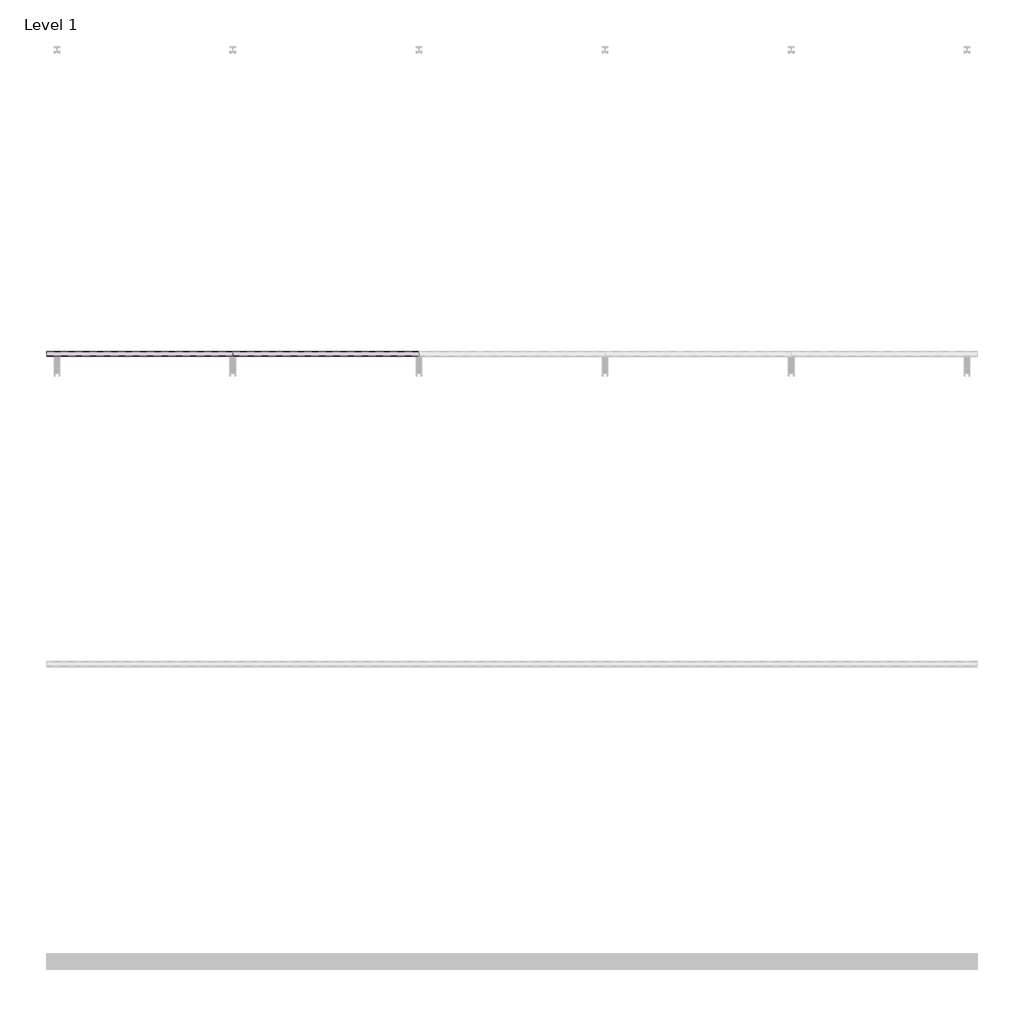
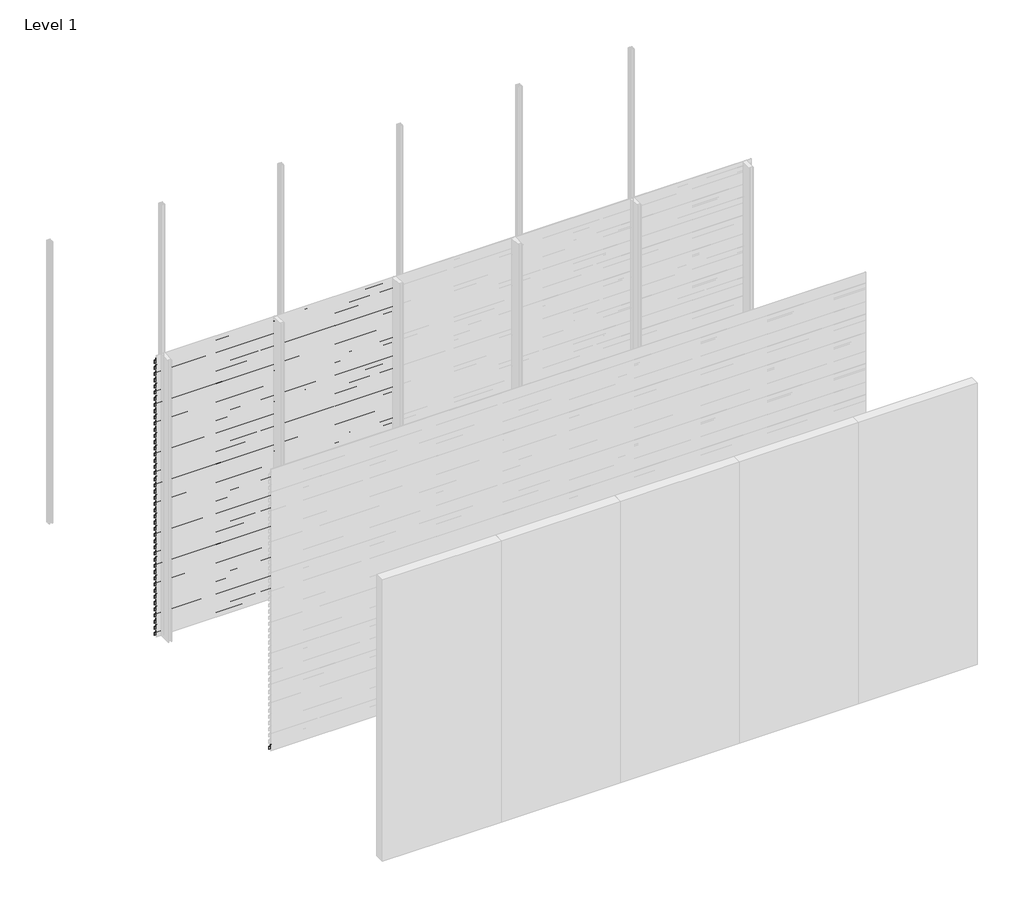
# One storey, part 7 of 33: 88 proxies.
"""IFC4 building model written with IfcOpenShell, lengths in millimetres."""

from ifc_helpers import new_model, si_unit, frame, origin, place, context, project, spatial, polyline, outline, extrude, element, save

model = new_model("IFC4")

# Units and contexts
model_context = context("Model", 3, world=origin())
ifc_project = project(units=[si_unit("LENGTHUNIT", "METRE", prefix="MILLI")], contexts=[model_context])

# Site, building, storey
site = spatial("IfcSite", under=ifc_project)
building = spatial("IfcBuilding", under=site)
storey = spatial("IfcBuildingStorey", under=building, Name="Level 1", Elevation=0.0)

# Proxies
placement = place(None, origin())
element("IfcBuildingElementProxy", 1, Name="Wall Sweeps", at=placement, inside=storey, context=model_context, shape_type="SweptSolid", body=[
    extrude(outline(polyline([(-47967.0, 2930.0), (-47967.0, 2897.0), (-47968.25, 2897.7216933), (-47968.25, 2929.2872415), (-47998.0, 2950.0588647), (-47998.0, 2970.0), (-47996.75, 2970.0), (-47996.75, 2950.7716232), (-47967.0, 2930.0)])), frame((0.0, 0.0, 0.0), z_axis=(1.0, 0.0, 0.0), x_axis=(0.0, 1.0, 0.0)), (0.0, 0.0, 1.0), 1200.0),
])
element("IfcBuildingElementProxy", 2, Name="Wall Sweeps", at=placement, inside=storey, context=model_context, shape_type="SweptSolid", body=[
    extrude(outline(polyline([(-47967.0, 2864.0), (-47967.0, 2831.0), (-47968.25, 2831.7216933), (-47968.25, 2863.2872415), (-47998.0, 2884.0588647), (-47998.0, 2904.0), (-47996.75, 2904.0), (-47996.75, 2884.7716232), (-47967.0, 2864.0)])), frame((0.0, 0.0, 0.0), z_axis=(1.0, 0.0, 0.0), x_axis=(0.0, 1.0, 0.0)), (0.0, 0.0, 1.0), 1200.0),
])
element("IfcBuildingElementProxy", 3, Name="Wall Sweeps", at=placement, inside=storey, context=model_context, shape_type="SweptSolid", body=[
    extrude(outline(polyline([(-47967.0, 2798.0), (-47967.0, 2765.0), (-47968.25, 2765.7216933), (-47968.25, 2797.2872415), (-47998.0, 2818.0588647), (-47998.0, 2838.0), (-47996.75, 2838.0), (-47996.75, 2818.7716232), (-47967.0, 2798.0)])), frame((0.0, 0.0, 0.0), z_axis=(1.0, 0.0, 0.0), x_axis=(0.0, 1.0, 0.0)), (0.0, 0.0, 1.0), 1200.0),
])
element("IfcBuildingElementProxy", 4, Name="Wall Sweeps", at=placement, inside=storey, context=model_context, shape_type="SweptSolid", body=[
    extrude(outline(polyline([(-47967.0, 2732.0), (-47967.0, 2699.0), (-47968.25, 2699.7216933), (-47968.25, 2731.2872415), (-47998.0, 2752.0588647), (-47998.0, 2772.0), (-47996.75, 2772.0), (-47996.75, 2752.7716232), (-47967.0, 2732.0)])), frame((0.0, 0.0, 0.0), z_axis=(1.0, 0.0, 0.0), x_axis=(0.0, 1.0, 0.0)), (0.0, 0.0, 1.0), 1200.0),
])
element("IfcBuildingElementProxy", 5, Name="Wall Sweeps", at=placement, inside=storey, context=model_context, shape_type="SweptSolid", body=[
    extrude(outline(polyline([(-47967.0, 2666.0), (-47967.0, 2633.0), (-47968.25, 2633.7216933), (-47968.25, 2665.2872415), (-47998.0, 2686.0588647), (-47998.0, 2706.0), (-47996.75, 2706.0), (-47996.75, 2686.7716232), (-47967.0, 2666.0)])), frame((0.0, 0.0, 0.0), z_axis=(1.0, 0.0, 0.0), x_axis=(0.0, 1.0, 0.0)), (0.0, 0.0, 1.0), 1200.0),
])
element("IfcBuildingElementProxy", 6, Name="Wall Sweeps", at=placement, inside=storey, context=model_context, shape_type="SweptSolid", body=[
    extrude(outline(polyline([(-47967.0, 2600.0), (-47967.0, 2567.0), (-47968.25, 2567.7216933), (-47968.25, 2599.2872415), (-47998.0, 2620.0588647), (-47998.0, 2640.0), (-47996.75, 2640.0), (-47996.75, 2620.7716232), (-47967.0, 2600.0)])), frame((0.0, 0.0, 0.0), z_axis=(1.0, 0.0, 0.0), x_axis=(0.0, 1.0, 0.0)), (0.0, 0.0, 1.0), 1200.0),
])
element("IfcBuildingElementProxy", 7, Name="Wall Sweeps", at=placement, inside=storey, context=model_context, shape_type="SweptSolid", body=[
    extrude(outline(polyline([(-47967.0, 2534.0), (-47967.0, 2501.0), (-47968.25, 2501.7216933), (-47968.25, 2533.2872415), (-47998.0, 2554.0588647), (-47998.0, 2574.0), (-47996.75, 2574.0), (-47996.75, 2554.7716232), (-47967.0, 2534.0)])), frame((0.0, 0.0, 0.0), z_axis=(1.0, 0.0, 0.0), x_axis=(0.0, 1.0, 0.0)), (0.0, 0.0, 1.0), 1200.0),
])
element("IfcBuildingElementProxy", 8, Name="Wall Sweeps", at=placement, inside=storey, context=model_context, shape_type="SweptSolid", body=[
    extrude(outline(polyline([(-47967.0, 2468.0), (-47967.0, 2435.0), (-47968.25, 2435.7216933), (-47968.25, 2467.2872415), (-47998.0, 2488.0588647), (-47998.0, 2508.0), (-47996.75, 2508.0), (-47996.75, 2488.7716232), (-47967.0, 2468.0)])), frame((0.0, 0.0, 0.0), z_axis=(1.0, 0.0, 0.0), x_axis=(0.0, 1.0, 0.0)), (0.0, 0.0, 1.0), 1200.0),
])
element("IfcBuildingElementProxy", 9, Name="Wall Sweeps", at=placement, inside=storey, context=model_context, shape_type="SweptSolid", body=[
    extrude(outline(polyline([(-47967.0, 2402.0), (-47967.0, 2369.0), (-47968.25, 2369.7216933), (-47968.25, 2401.2872415), (-47998.0, 2422.0588647), (-47998.0, 2442.0), (-47996.75, 2442.0), (-47996.75, 2422.7716232), (-47967.0, 2402.0)])), frame((0.0, 0.0, 0.0), z_axis=(1.0, 0.0, 0.0), x_axis=(0.0, 1.0, 0.0)), (0.0, 0.0, 1.0), 1200.0),
])
element("IfcBuildingElementProxy", 10, Name="Wall Sweeps", at=placement, inside=storey, context=model_context, shape_type="SweptSolid", body=[
    extrude(outline(polyline([(-47967.0, 2336.0), (-47967.0, 2303.0), (-47968.25, 2303.7216933), (-47968.25, 2335.2872415), (-47998.0, 2356.0588647), (-47998.0, 2376.0), (-47996.75, 2376.0), (-47996.75, 2356.7716232), (-47967.0, 2336.0)])), frame((0.0, 0.0, 0.0), z_axis=(1.0, 0.0, 0.0), x_axis=(0.0, 1.0, 0.0)), (0.0, 0.0, 1.0), 1200.0),
])
element("IfcBuildingElementProxy", 11, Name="Wall Sweeps", at=placement, inside=storey, context=model_context, shape_type="SweptSolid", body=[
    extrude(outline(polyline([(-47967.0, 2270.0), (-47967.0, 2237.0), (-47968.25, 2237.7216933), (-47968.25, 2269.2872415), (-47998.0, 2290.0588647), (-47998.0, 2310.0), (-47996.75, 2310.0), (-47996.75, 2290.7716232), (-47967.0, 2270.0)])), frame((0.0, 0.0, 0.0), z_axis=(1.0, 0.0, 0.0), x_axis=(0.0, 1.0, 0.0)), (0.0, 0.0, 1.0), 1200.0),
])
element("IfcBuildingElementProxy", 12, Name="Wall Sweeps", at=placement, inside=storey, context=model_context, shape_type="SweptSolid", body=[
    extrude(outline(polyline([(-47967.0, 2204.0), (-47967.0, 2171.0), (-47968.25, 2171.7216933), (-47968.25, 2203.2872415), (-47998.0, 2224.0588647), (-47998.0, 2244.0), (-47996.75, 2244.0), (-47996.75, 2224.7716232), (-47967.0, 2204.0)])), frame((0.0, 0.0, 0.0), z_axis=(1.0, 0.0, 0.0), x_axis=(0.0, 1.0, 0.0)), (0.0, 0.0, 1.0), 1200.0),
])
element("IfcBuildingElementProxy", 13, Name="Wall Sweeps", at=placement, inside=storey, context=model_context, shape_type="SweptSolid", body=[
    extrude(outline(polyline([(-47967.0, 2138.0), (-47967.0, 2105.0), (-47968.25, 2105.7216933), (-47968.25, 2137.2872415), (-47998.0, 2158.0588647), (-47998.0, 2178.0), (-47996.75, 2178.0), (-47996.75, 2158.7716232), (-47967.0, 2138.0)])), frame((0.0, 0.0, 0.0), z_axis=(1.0, 0.0, 0.0), x_axis=(0.0, 1.0, 0.0)), (0.0, 0.0, 1.0), 1200.0),
])
element("IfcBuildingElementProxy", 14, Name="Wall Sweeps", at=placement, inside=storey, context=model_context, shape_type="SweptSolid", body=[
    extrude(outline(polyline([(-47967.0, 2072.0), (-47967.0, 2039.0), (-47968.25, 2039.7216933), (-47968.25, 2071.2872415), (-47998.0, 2092.0588647), (-47998.0, 2112.0), (-47996.75, 2112.0), (-47996.75, 2092.7716232), (-47967.0, 2072.0)])), frame((0.0, 0.0, 0.0), z_axis=(1.0, 0.0, 0.0), x_axis=(0.0, 1.0, 0.0)), (0.0, 0.0, 1.0), 1200.0),
])
element("IfcBuildingElementProxy", 15, Name="Wall Sweeps", at=placement, inside=storey, context=model_context, shape_type="SweptSolid", body=[
    extrude(outline(polyline([(-47967.0, 2006.0), (-47967.0, 1973.0), (-47968.25, 1973.7216933), (-47968.25, 2005.2872415), (-47998.0, 2026.0588647), (-47998.0, 2046.0), (-47996.75, 2046.0), (-47996.75, 2026.7716232), (-47967.0, 2006.0)])), frame((0.0, 0.0, 0.0), z_axis=(1.0, 0.0, 0.0), x_axis=(0.0, 1.0, 0.0)), (0.0, 0.0, 1.0), 1200.0),
])
element("IfcBuildingElementProxy", 16, Name="Wall Sweeps", at=placement, inside=storey, context=model_context, shape_type="SweptSolid", body=[
    extrude(outline(polyline([(-47967.0, 1940.0), (-47967.0, 1907.0), (-47968.25, 1907.7216933), (-47968.25, 1939.2872415), (-47998.0, 1960.0588647), (-47998.0, 1980.0), (-47996.75, 1980.0), (-47996.75, 1960.7716232), (-47967.0, 1940.0)])), frame((0.0, 0.0, 0.0), z_axis=(1.0, 0.0, 0.0), x_axis=(0.0, 1.0, 0.0)), (0.0, 0.0, 1.0), 1200.0),
])
element("IfcBuildingElementProxy", 17, Name="Wall Sweeps", at=placement, inside=storey, context=model_context, shape_type="SweptSolid", body=[
    extrude(outline(polyline([(-47967.0, 1874.0), (-47967.0, 1841.0), (-47968.25, 1841.7216933), (-47968.25, 1873.2872415), (-47998.0, 1894.0588647), (-47998.0, 1914.0), (-47996.75, 1914.0), (-47996.75, 1894.7716232), (-47967.0, 1874.0)])), frame((0.0, 0.0, 0.0), z_axis=(1.0, 0.0, 0.0), x_axis=(0.0, 1.0, 0.0)), (0.0, 0.0, 1.0), 1200.0),
])
element("IfcBuildingElementProxy", 18, Name="Wall Sweeps", at=placement, inside=storey, context=model_context, shape_type="SweptSolid", body=[
    extrude(outline(polyline([(-47967.0, 1808.0), (-47967.0, 1775.0), (-47968.25, 1775.7216933), (-47968.25, 1807.2872415), (-47998.0, 1828.0588647), (-47998.0, 1848.0), (-47996.75, 1848.0), (-47996.75, 1828.7716232), (-47967.0, 1808.0)])), frame((0.0, 0.0, 0.0), z_axis=(1.0, 0.0, 0.0), x_axis=(0.0, 1.0, 0.0)), (0.0, 0.0, 1.0), 1200.0),
])
element("IfcBuildingElementProxy", 19, Name="Wall Sweeps", at=placement, inside=storey, context=model_context, shape_type="SweptSolid", body=[
    extrude(outline(polyline([(-47967.0, 1742.0), (-47967.0, 1709.0), (-47968.25, 1709.7216933), (-47968.25, 1741.2872415), (-47998.0, 1762.0588647), (-47998.0, 1782.0), (-47996.75, 1782.0), (-47996.75, 1762.7716232), (-47967.0, 1742.0)])), frame((0.0, 0.0, 0.0), z_axis=(1.0, 0.0, 0.0), x_axis=(0.0, 1.0, 0.0)), (0.0, 0.0, 1.0), 1200.0),
])
element("IfcBuildingElementProxy", 20, Name="Wall Sweeps", at=placement, inside=storey, context=model_context, shape_type="SweptSolid", body=[
    extrude(outline(polyline([(-47967.0, 1676.0), (-47967.0, 1643.0), (-47968.25, 1643.7216933), (-47968.25, 1675.2872415), (-47998.0, 1696.0588647), (-47998.0, 1716.0), (-47996.75, 1716.0), (-47996.75, 1696.7716232), (-47967.0, 1676.0)])), frame((0.0, 0.0, 0.0), z_axis=(1.0, 0.0, 0.0), x_axis=(0.0, 1.0, 0.0)), (0.0, 0.0, 1.0), 1200.0),
])
element("IfcBuildingElementProxy", 21, Name="Wall Sweeps", at=placement, inside=storey, context=model_context, shape_type="SweptSolid", body=[
    extrude(outline(polyline([(-47967.0, 1610.0), (-47967.0, 1577.0), (-47968.25, 1577.7216933), (-47968.25, 1609.2872415), (-47998.0, 1630.0588647), (-47998.0, 1650.0), (-47996.75, 1650.0), (-47996.75, 1630.7716232), (-47967.0, 1610.0)])), frame((0.0, 0.0, 0.0), z_axis=(1.0, 0.0, 0.0), x_axis=(0.0, 1.0, 0.0)), (0.0, 0.0, 1.0), 1200.0),
])
element("IfcBuildingElementProxy", 22, Name="Wall Sweeps", at=placement, inside=storey, context=model_context, shape_type="SweptSolid", body=[
    extrude(outline(polyline([(-47967.0, 1544.0), (-47967.0, 1511.0), (-47968.25, 1511.7216933), (-47968.25, 1543.2872415), (-47998.0, 1564.0588647), (-47998.0, 1584.0), (-47996.75, 1584.0), (-47996.75, 1564.7716232), (-47967.0, 1544.0)])), frame((0.0, 0.0, 0.0), z_axis=(1.0, 0.0, 0.0), x_axis=(0.0, 1.0, 0.0)), (0.0, 0.0, 1.0), 1200.0),
])
element("IfcBuildingElementProxy", 23, Name="Wall Sweeps", at=placement, inside=storey, context=model_context, shape_type="SweptSolid", body=[
    extrude(outline(polyline([(-47967.0, 1478.0), (-47967.0, 1445.0), (-47968.25, 1445.7216933), (-47968.25, 1477.2872415), (-47998.0, 1498.0588647), (-47998.0, 1518.0), (-47996.75, 1518.0), (-47996.75, 1498.7716232), (-47967.0, 1478.0)])), frame((0.0, 0.0, 0.0), z_axis=(1.0, 0.0, 0.0), x_axis=(0.0, 1.0, 0.0)), (0.0, 0.0, 1.0), 1200.0),
])
element("IfcBuildingElementProxy", 24, Name="Wall Sweeps", at=placement, inside=storey, context=model_context, shape_type="SweptSolid", body=[
    extrude(outline(polyline([(-47967.0, 1412.0), (-47967.0, 1379.0), (-47968.25, 1379.7216933), (-47968.25, 1411.2872415), (-47998.0, 1432.0588647), (-47998.0, 1452.0), (-47996.75, 1452.0), (-47996.75, 1432.7716232), (-47967.0, 1412.0)])), frame((0.0, 0.0, 0.0), z_axis=(1.0, 0.0, 0.0), x_axis=(0.0, 1.0, 0.0)), (0.0, 0.0, 1.0), 1200.0),
])
element("IfcBuildingElementProxy", 25, Name="Wall Sweeps", at=placement, inside=storey, context=model_context, shape_type="SweptSolid", body=[
    extrude(outline(polyline([(-47967.0, 1346.0), (-47967.0, 1313.0), (-47968.25, 1313.7216933), (-47968.25, 1345.2872415), (-47998.0, 1366.0588647), (-47998.0, 1386.0), (-47996.75, 1386.0), (-47996.75, 1366.7716232), (-47967.0, 1346.0)])), frame((0.0, 0.0, 0.0), z_axis=(1.0, 0.0, 0.0), x_axis=(0.0, 1.0, 0.0)), (0.0, 0.0, 1.0), 1200.0),
])
element("IfcBuildingElementProxy", 26, Name="Wall Sweeps", at=placement, inside=storey, context=model_context, shape_type="SweptSolid", body=[
    extrude(outline(polyline([(-47967.0, 1280.0), (-47967.0, 1247.0), (-47968.25, 1247.7216933), (-47968.25, 1279.2872415), (-47998.0, 1300.0588647), (-47998.0, 1320.0), (-47996.75, 1320.0), (-47996.75, 1300.7716232), (-47967.0, 1280.0)])), frame((0.0, 0.0, 0.0), z_axis=(1.0, 0.0, 0.0), x_axis=(0.0, 1.0, 0.0)), (0.0, 0.0, 1.0), 1200.0),
])
element("IfcBuildingElementProxy", 27, Name="Wall Sweeps", at=placement, inside=storey, context=model_context, shape_type="SweptSolid", body=[
    extrude(outline(polyline([(-47967.0, 1214.0), (-47967.0, 1181.0), (-47968.25, 1181.7216933), (-47968.25, 1213.2872415), (-47998.0, 1234.0588647), (-47998.0, 1254.0), (-47996.75, 1254.0), (-47996.75, 1234.7716232), (-47967.0, 1214.0)])), frame((0.0, 0.0, 0.0), z_axis=(1.0, 0.0, 0.0), x_axis=(0.0, 1.0, 0.0)), (0.0, 0.0, 1.0), 1200.0),
])
element("IfcBuildingElementProxy", 28, Name="Wall Sweeps", at=placement, inside=storey, context=model_context, shape_type="SweptSolid", body=[
    extrude(outline(polyline([(-47967.0, 1148.0), (-47967.0, 1115.0), (-47968.25, 1115.7216933), (-47968.25, 1147.2872415), (-47998.0, 1168.0588647), (-47998.0, 1188.0), (-47996.75, 1188.0), (-47996.75, 1168.7716232), (-47967.0, 1148.0)])), frame((0.0, 0.0, 0.0), z_axis=(1.0, 0.0, 0.0), x_axis=(0.0, 1.0, 0.0)), (0.0, 0.0, 1.0), 1200.0),
])
element("IfcBuildingElementProxy", 29, Name="Wall Sweeps", at=placement, inside=storey, context=model_context, shape_type="SweptSolid", body=[
    extrude(outline(polyline([(-47967.0, 1082.0), (-47967.0, 1049.0), (-47968.25, 1049.7216933), (-47968.25, 1081.2872415), (-47998.0, 1102.0588647), (-47998.0, 1122.0), (-47996.75, 1122.0), (-47996.75, 1102.7716232), (-47967.0, 1082.0)])), frame((0.0, 0.0, 0.0), z_axis=(1.0, 0.0, 0.0), x_axis=(0.0, 1.0, 0.0)), (0.0, 0.0, 1.0), 1200.0),
])
element("IfcBuildingElementProxy", 30, Name="Wall Sweeps", at=placement, inside=storey, context=model_context, shape_type="SweptSolid", body=[
    extrude(outline(polyline([(-47967.0, 1016.0), (-47967.0, 983.0), (-47968.25, 983.7216933), (-47968.25, 1015.2872415), (-47998.0, 1036.0588647), (-47998.0, 1056.0), (-47996.75, 1056.0), (-47996.75, 1036.7716232), (-47967.0, 1016.0)])), frame((0.0, 0.0, 0.0), z_axis=(1.0, 0.0, 0.0), x_axis=(0.0, 1.0, 0.0)), (0.0, 0.0, 1.0), 1200.0),
])
element("IfcBuildingElementProxy", 31, Name="Wall Sweeps", at=placement, inside=storey, context=model_context, shape_type="SweptSolid", body=[
    extrude(outline(polyline([(-47967.0, 950.0), (-47967.0, 917.0), (-47968.25, 917.7216933), (-47968.25, 949.2872415), (-47998.0, 970.0588647), (-47998.0, 990.0), (-47996.75, 990.0), (-47996.75, 970.7716232), (-47967.0, 950.0)])), frame((0.0, 0.0, 0.0), z_axis=(1.0, 0.0, 0.0), x_axis=(0.0, 1.0, 0.0)), (0.0, 0.0, 1.0), 1200.0),
])
element("IfcBuildingElementProxy", 32, Name="Wall Sweeps", at=placement, inside=storey, context=model_context, shape_type="SweptSolid", body=[
    extrude(outline(polyline([(-47967.0, 884.0), (-47967.0, 851.0), (-47968.25, 851.7216933), (-47968.25, 883.2872415), (-47998.0, 904.0588647), (-47998.0, 924.0), (-47996.75, 924.0), (-47996.75, 904.7716232), (-47967.0, 884.0)])), frame((0.0, 0.0, 0.0), z_axis=(1.0, 0.0, 0.0), x_axis=(0.0, 1.0, 0.0)), (0.0, 0.0, 1.0), 1200.0),
])
element("IfcBuildingElementProxy", 33, Name="Wall Sweeps", at=placement, inside=storey, context=model_context, shape_type="SweptSolid", body=[
    extrude(outline(polyline([(-47967.0, 818.0), (-47967.0, 785.0), (-47968.25, 785.7216933), (-47968.25, 817.2872415), (-47998.0, 838.0588647), (-47998.0, 858.0), (-47996.75, 858.0), (-47996.75, 838.7716232), (-47967.0, 818.0)])), frame((0.0, 0.0, 0.0), z_axis=(1.0, 0.0, 0.0), x_axis=(0.0, 1.0, 0.0)), (0.0, 0.0, 1.0), 1200.0),
])
element("IfcBuildingElementProxy", 34, Name="Wall Sweeps", at=placement, inside=storey, context=model_context, shape_type="SweptSolid", body=[
    extrude(outline(polyline([(-47967.0, 752.0), (-47967.0, 719.0), (-47968.25, 719.7216933), (-47968.25, 751.2872415), (-47998.0, 772.0588647), (-47998.0, 792.0), (-47996.75, 792.0), (-47996.75, 772.7716232), (-47967.0, 752.0)])), frame((0.0, 0.0, 0.0), z_axis=(1.0, 0.0, 0.0), x_axis=(0.0, 1.0, 0.0)), (0.0, 0.0, 1.0), 1200.0),
])
element("IfcBuildingElementProxy", 35, Name="Wall Sweeps", at=placement, inside=storey, context=model_context, shape_type="SweptSolid", body=[
    extrude(outline(polyline([(-47967.0, 686.0), (-47967.0, 653.0), (-47968.25, 653.7216933), (-47968.25, 685.2872415), (-47998.0, 706.0588647), (-47998.0, 726.0), (-47996.75, 726.0), (-47996.75, 706.7716232), (-47967.0, 686.0)])), frame((0.0, 0.0, 0.0), z_axis=(1.0, 0.0, 0.0), x_axis=(0.0, 1.0, 0.0)), (0.0, 0.0, 1.0), 1200.0),
])
element("IfcBuildingElementProxy", 36, Name="Wall Sweeps", at=placement, inside=storey, context=model_context, shape_type="SweptSolid", body=[
    extrude(outline(polyline([(-47967.0, 620.0), (-47967.0, 587.0), (-47968.25, 587.7216933), (-47968.25, 619.2872415), (-47998.0, 640.0588647), (-47998.0, 660.0), (-47996.75, 660.0), (-47996.75, 640.7716232), (-47967.0, 620.0)])), frame((0.0, 0.0, 0.0), z_axis=(1.0, 0.0, 0.0), x_axis=(0.0, 1.0, 0.0)), (0.0, 0.0, 1.0), 1200.0),
])
element("IfcBuildingElementProxy", 37, Name="Wall Sweeps", at=placement, inside=storey, context=model_context, shape_type="SweptSolid", body=[
    extrude(outline(polyline([(-47967.0, 554.0), (-47967.0, 521.0), (-47968.25, 521.7216933), (-47968.25, 553.2872415), (-47998.0, 574.0588647), (-47998.0, 594.0), (-47996.75, 594.0), (-47996.75, 574.7716232), (-47967.0, 554.0)])), frame((0.0, 0.0, 0.0), z_axis=(1.0, 0.0, 0.0), x_axis=(0.0, 1.0, 0.0)), (0.0, 0.0, 1.0), 1200.0),
])
element("IfcBuildingElementProxy", 38, Name="Wall Sweeps", at=placement, inside=storey, context=model_context, shape_type="SweptSolid", body=[
    extrude(outline(polyline([(-47967.0, 488.0), (-47967.0, 455.0), (-47968.25, 455.7216933), (-47968.25, 487.2872415), (-47998.0, 508.0588647), (-47998.0, 528.0), (-47996.75, 528.0), (-47996.75, 508.7716232), (-47967.0, 488.0)])), frame((0.0, 0.0, 0.0), z_axis=(1.0, 0.0, 0.0), x_axis=(0.0, 1.0, 0.0)), (0.0, 0.0, 1.0), 1200.0),
])
element("IfcBuildingElementProxy", 39, Name="Wall Sweeps", at=placement, inside=storey, context=model_context, shape_type="SweptSolid", body=[
    extrude(outline(polyline([(-47967.0, 422.0), (-47967.0, 389.0), (-47968.25, 389.7216933), (-47968.25, 421.2872415), (-47998.0, 442.0588647), (-47998.0, 462.0), (-47996.75, 462.0), (-47996.75, 442.7716232), (-47967.0, 422.0)])), frame((0.0, 0.0, 0.0), z_axis=(1.0, 0.0, 0.0), x_axis=(0.0, 1.0, 0.0)), (0.0, 0.0, 1.0), 1200.0),
])
element("IfcBuildingElementProxy", 40, Name="Wall Sweeps", at=placement, inside=storey, context=model_context, shape_type="SweptSolid", body=[
    extrude(outline(polyline([(-47967.0, 356.0), (-47967.0, 323.0), (-47968.25, 323.7216933), (-47968.25, 355.2872415), (-47998.0, 376.0588647), (-47998.0, 396.0), (-47996.75, 396.0), (-47996.75, 376.7716232), (-47967.0, 356.0)])), frame((0.0, 0.0, 0.0), z_axis=(1.0, 0.0, 0.0), x_axis=(0.0, 1.0, 0.0)), (0.0, 0.0, 1.0), 1200.0),
])
element("IfcBuildingElementProxy", 41, Name="Wall Sweeps", at=placement, inside=storey, context=model_context, shape_type="SweptSolid", body=[
    extrude(outline(polyline([(-47967.0, 290.0), (-47967.0, 257.0), (-47968.25, 257.7216933), (-47968.25, 289.2872415), (-47998.0, 310.0588647), (-47998.0, 330.0), (-47996.75, 330.0), (-47996.75, 310.7716232), (-47967.0, 290.0)])), frame((0.0, 0.0, 0.0), z_axis=(1.0, 0.0, 0.0), x_axis=(0.0, 1.0, 0.0)), (0.0, 0.0, 1.0), 1200.0),
])
element("IfcBuildingElementProxy", 42, Name="Wall Sweeps", at=placement, inside=storey, context=model_context, shape_type="SweptSolid", body=[
    extrude(outline(polyline([(-47967.0, 224.0), (-47967.0, 191.0), (-47968.25, 191.7216933), (-47968.25, 223.2872415), (-47998.0, 244.0588647), (-47998.0, 264.0), (-47996.75, 264.0), (-47996.75, 244.7716232), (-47967.0, 224.0)])), frame((0.0, 0.0, 0.0), z_axis=(1.0, 0.0, 0.0), x_axis=(0.0, 1.0, 0.0)), (0.0, 0.0, 1.0), 1200.0),
])
element("IfcBuildingElementProxy", 43, Name="Wall Sweeps", at=placement, inside=storey, context=model_context, shape_type="SweptSolid", body=[
    extrude(outline(polyline([(-47967.0, 158.0), (-47967.0, 125.0), (-47968.25, 125.7216933), (-47968.25, 157.2872415), (-47998.0, 178.0588647), (-47998.0, 198.0), (-47996.75, 198.0), (-47996.75, 178.7716232), (-47967.0, 158.0)])), frame((0.0, 0.0, 0.0), z_axis=(1.0, 0.0, 0.0), x_axis=(0.0, 1.0, 0.0)), (0.0, 0.0, 1.0), 1200.0),
])
element("IfcBuildingElementProxy", 44, Name="Wall Sweeps", at=placement, inside=storey, context=model_context, shape_type="SweptSolid", body=[
    extrude(outline(polyline([(-47967.0, 92.0), (-47967.0, 59.0), (-47968.25, 59.7216933), (-47968.25, 91.2872415), (-47998.0, 112.0588647), (-47998.0, 132.0), (-47996.75, 132.0), (-47996.75, 112.7716232), (-47967.0, 92.0)])), frame((0.0, 0.0, 0.0), z_axis=(1.0, 0.0, 0.0), x_axis=(0.0, 1.0, 0.0)), (0.0, 0.0, 1.0), 1200.0),
])
element("IfcBuildingElementProxy", 45, Name="Wall Sweeps", at=placement, inside=storey, context=model_context, shape_type="SweptSolid", body=[
    extrude(outline(polyline([(-47967.0, 26.0), (-47967.0, -7.0), (-47968.25, -6.2783067), (-47968.25, 25.2872415), (-47998.0, 46.0588647), (-47998.0, 66.0), (-47996.75, 66.0), (-47996.75, 46.7716232), (-47967.0, 26.0)])), frame((0.0, 0.0, 0.0), z_axis=(1.0, 0.0, 0.0), x_axis=(0.0, 1.0, 0.0)), (0.0, 0.0, 1.0), 1200.0),
])
element("IfcBuildingElementProxy", 46, Name="Wall Sweeps", at=placement, inside=storey, context=model_context, shape_type="SweptSolid", body=[
    extrude(outline(polyline([(-47967.0, 2930.0), (-47967.0, 2897.0), (-47968.25, 2897.7216933), (-47968.25, 2929.2872415), (-47998.0, 2950.0588647), (-47998.0, 2970.0), (-47996.75, 2970.0), (-47996.75, 2950.7716232), (-47967.0, 2930.0)])), frame((1200.0, 0.0, 0.0), z_axis=(1.0, 0.0, 0.0), x_axis=(0.0, 1.0, 0.0)), (0.0, 0.0, 1.0), 1200.0),
])
element("IfcBuildingElementProxy", 47, Name="Wall Sweeps", at=placement, inside=storey, context=model_context, shape_type="SweptSolid", body=[
    extrude(outline(polyline([(-47967.0, 2864.0), (-47967.0, 2831.0), (-47968.25, 2831.7216933), (-47968.25, 2863.2872415), (-47998.0, 2884.0588647), (-47998.0, 2904.0), (-47996.75, 2904.0), (-47996.75, 2884.7716232), (-47967.0, 2864.0)])), frame((1200.0, 0.0, 0.0), z_axis=(1.0, 0.0, 0.0), x_axis=(0.0, 1.0, 0.0)), (0.0, 0.0, 1.0), 1200.0),
])
element("IfcBuildingElementProxy", 48, Name="Wall Sweeps", at=placement, inside=storey, context=model_context, shape_type="SweptSolid", body=[
    extrude(outline(polyline([(-47967.0, 2798.0), (-47967.0, 2765.0), (-47968.25, 2765.7216933), (-47968.25, 2797.2872415), (-47998.0, 2818.0588647), (-47998.0, 2838.0), (-47996.75, 2838.0), (-47996.75, 2818.7716232), (-47967.0, 2798.0)])), frame((1200.0, 0.0, 0.0), z_axis=(1.0, 0.0, 0.0), x_axis=(0.0, 1.0, 0.0)), (0.0, 0.0, 1.0), 1200.0),
])
element("IfcBuildingElementProxy", 49, Name="Wall Sweeps", at=placement, inside=storey, context=model_context, shape_type="SweptSolid", body=[
    extrude(outline(polyline([(-47967.0, 2732.0), (-47967.0, 2699.0), (-47968.25, 2699.7216933), (-47968.25, 2731.2872415), (-47998.0, 2752.0588647), (-47998.0, 2772.0), (-47996.75, 2772.0), (-47996.75, 2752.7716232), (-47967.0, 2732.0)])), frame((1200.0, 0.0, 0.0), z_axis=(1.0, 0.0, 0.0), x_axis=(0.0, 1.0, 0.0)), (0.0, 0.0, 1.0), 1200.0),
])
element("IfcBuildingElementProxy", 50, Name="Wall Sweeps", at=placement, inside=storey, context=model_context, shape_type="SweptSolid", body=[
    extrude(outline(polyline([(-47967.0, 2666.0), (-47967.0, 2633.0), (-47968.25, 2633.7216933), (-47968.25, 2665.2872415), (-47998.0, 2686.0588647), (-47998.0, 2706.0), (-47996.75, 2706.0), (-47996.75, 2686.7716232), (-47967.0, 2666.0)])), frame((1200.0, 0.0, 0.0), z_axis=(1.0, 0.0, 0.0), x_axis=(0.0, 1.0, 0.0)), (0.0, 0.0, 1.0), 1200.0),
])
element("IfcBuildingElementProxy", 51, Name="Wall Sweeps", at=placement, inside=storey, context=model_context, shape_type="SweptSolid", body=[
    extrude(outline(polyline([(-47967.0, 2600.0), (-47967.0, 2567.0), (-47968.25, 2567.7216933), (-47968.25, 2599.2872415), (-47998.0, 2620.0588647), (-47998.0, 2640.0), (-47996.75, 2640.0), (-47996.75, 2620.7716232), (-47967.0, 2600.0)])), frame((1200.0, 0.0, 0.0), z_axis=(1.0, 0.0, 0.0), x_axis=(0.0, 1.0, 0.0)), (0.0, 0.0, 1.0), 1200.0),
])
element("IfcBuildingElementProxy", 52, Name="Wall Sweeps", at=placement, inside=storey, context=model_context, shape_type="SweptSolid", body=[
    extrude(outline(polyline([(-47967.0, 2534.0), (-47967.0, 2501.0), (-47968.25, 2501.7216933), (-47968.25, 2533.2872415), (-47998.0, 2554.0588647), (-47998.0, 2574.0), (-47996.75, 2574.0), (-47996.75, 2554.7716232), (-47967.0, 2534.0)])), frame((1200.0, 0.0, 0.0), z_axis=(1.0, 0.0, 0.0), x_axis=(0.0, 1.0, 0.0)), (0.0, 0.0, 1.0), 1200.0),
])
element("IfcBuildingElementProxy", 53, Name="Wall Sweeps", at=placement, inside=storey, context=model_context, shape_type="SweptSolid", body=[
    extrude(outline(polyline([(-47967.0, 2468.0), (-47967.0, 2435.0), (-47968.25, 2435.7216933), (-47968.25, 2467.2872415), (-47998.0, 2488.0588647), (-47998.0, 2508.0), (-47996.75, 2508.0), (-47996.75, 2488.7716232), (-47967.0, 2468.0)])), frame((1200.0, 0.0, 0.0), z_axis=(1.0, 0.0, 0.0), x_axis=(0.0, 1.0, 0.0)), (0.0, 0.0, 1.0), 1200.0),
])
element("IfcBuildingElementProxy", 54, Name="Wall Sweeps", at=placement, inside=storey, context=model_context, shape_type="SweptSolid", body=[
    extrude(outline(polyline([(-47967.0, 2402.0), (-47967.0, 2369.0), (-47968.25, 2369.7216933), (-47968.25, 2401.2872415), (-47998.0, 2422.0588647), (-47998.0, 2442.0), (-47996.75, 2442.0), (-47996.75, 2422.7716232), (-47967.0, 2402.0)])), frame((1200.0, 0.0, 0.0), z_axis=(1.0, 0.0, 0.0), x_axis=(0.0, 1.0, 0.0)), (0.0, 0.0, 1.0), 1200.0),
])
element("IfcBuildingElementProxy", 55, Name="Wall Sweeps", at=placement, inside=storey, context=model_context, shape_type="SweptSolid", body=[
    extrude(outline(polyline([(-47967.0, 2336.0), (-47967.0, 2303.0), (-47968.25, 2303.7216933), (-47968.25, 2335.2872415), (-47998.0, 2356.0588647), (-47998.0, 2376.0), (-47996.75, 2376.0), (-47996.75, 2356.7716232), (-47967.0, 2336.0)])), frame((1200.0, 0.0, 0.0), z_axis=(1.0, 0.0, 0.0), x_axis=(0.0, 1.0, 0.0)), (0.0, 0.0, 1.0), 1200.0),
])
element("IfcBuildingElementProxy", 56, Name="Wall Sweeps", at=placement, inside=storey, context=model_context, shape_type="SweptSolid", body=[
    extrude(outline(polyline([(-47967.0, 2270.0), (-47967.0, 2237.0), (-47968.25, 2237.7216933), (-47968.25, 2269.2872415), (-47998.0, 2290.0588647), (-47998.0, 2310.0), (-47996.75, 2310.0), (-47996.75, 2290.7716232), (-47967.0, 2270.0)])), frame((1200.0, 0.0, 0.0), z_axis=(1.0, 0.0, 0.0), x_axis=(0.0, 1.0, 0.0)), (0.0, 0.0, 1.0), 1200.0),
])
element("IfcBuildingElementProxy", 57, Name="Wall Sweeps", at=placement, inside=storey, context=model_context, shape_type="SweptSolid", body=[
    extrude(outline(polyline([(-47967.0, 2204.0), (-47967.0, 2171.0), (-47968.25, 2171.7216933), (-47968.25, 2203.2872415), (-47998.0, 2224.0588647), (-47998.0, 2244.0), (-47996.75, 2244.0), (-47996.75, 2224.7716232), (-47967.0, 2204.0)])), frame((1200.0, 0.0, 0.0), z_axis=(1.0, 0.0, 0.0), x_axis=(0.0, 1.0, 0.0)), (0.0, 0.0, 1.0), 1200.0),
])
element("IfcBuildingElementProxy", 58, Name="Wall Sweeps", at=placement, inside=storey, context=model_context, shape_type="SweptSolid", body=[
    extrude(outline(polyline([(-47967.0, 2138.0), (-47967.0, 2105.0), (-47968.25, 2105.7216933), (-47968.25, 2137.2872415), (-47998.0, 2158.0588647), (-47998.0, 2178.0), (-47996.75, 2178.0), (-47996.75, 2158.7716232), (-47967.0, 2138.0)])), frame((1200.0, 0.0, 0.0), z_axis=(1.0, 0.0, 0.0), x_axis=(0.0, 1.0, 0.0)), (0.0, 0.0, 1.0), 1200.0),
])
element("IfcBuildingElementProxy", 59, Name="Wall Sweeps", at=placement, inside=storey, context=model_context, shape_type="SweptSolid", body=[
    extrude(outline(polyline([(-47967.0, 2072.0), (-47967.0, 2039.0), (-47968.25, 2039.7216933), (-47968.25, 2071.2872415), (-47998.0, 2092.0588647), (-47998.0, 2112.0), (-47996.75, 2112.0), (-47996.75, 2092.7716232), (-47967.0, 2072.0)])), frame((1200.0, 0.0, 0.0), z_axis=(1.0, 0.0, 0.0), x_axis=(0.0, 1.0, 0.0)), (0.0, 0.0, 1.0), 1200.0),
])
element("IfcBuildingElementProxy", 60, Name="Wall Sweeps", at=placement, inside=storey, context=model_context, shape_type="SweptSolid", body=[
    extrude(outline(polyline([(-47967.0, 2006.0), (-47967.0, 1973.0), (-47968.25, 1973.7216933), (-47968.25, 2005.2872415), (-47998.0, 2026.0588647), (-47998.0, 2046.0), (-47996.75, 2046.0), (-47996.75, 2026.7716232), (-47967.0, 2006.0)])), frame((1200.0, 0.0, 0.0), z_axis=(1.0, 0.0, 0.0), x_axis=(0.0, 1.0, 0.0)), (0.0, 0.0, 1.0), 1200.0),
])
element("IfcBuildingElementProxy", 61, Name="Wall Sweeps", at=placement, inside=storey, context=model_context, shape_type="SweptSolid", body=[
    extrude(outline(polyline([(-47967.0, 1940.0), (-47967.0, 1907.0), (-47968.25, 1907.7216933), (-47968.25, 1939.2872415), (-47998.0, 1960.0588647), (-47998.0, 1980.0), (-47996.75, 1980.0), (-47996.75, 1960.7716232), (-47967.0, 1940.0)])), frame((1200.0, 0.0, 0.0), z_axis=(1.0, 0.0, 0.0), x_axis=(0.0, 1.0, 0.0)), (0.0, 0.0, 1.0), 1200.0),
])
element("IfcBuildingElementProxy", 62, Name="Wall Sweeps", at=placement, inside=storey, context=model_context, shape_type="SweptSolid", body=[
    extrude(outline(polyline([(-47967.0, 1874.0), (-47967.0, 1841.0), (-47968.25, 1841.7216933), (-47968.25, 1873.2872415), (-47998.0, 1894.0588647), (-47998.0, 1914.0), (-47996.75, 1914.0), (-47996.75, 1894.7716232), (-47967.0, 1874.0)])), frame((1200.0, 0.0, 0.0), z_axis=(1.0, 0.0, 0.0), x_axis=(0.0, 1.0, 0.0)), (0.0, 0.0, 1.0), 1200.0),
])
element("IfcBuildingElementProxy", 63, Name="Wall Sweeps", at=placement, inside=storey, context=model_context, shape_type="SweptSolid", body=[
    extrude(outline(polyline([(-47967.0, 1808.0), (-47967.0, 1775.0), (-47968.25, 1775.7216933), (-47968.25, 1807.2872415), (-47998.0, 1828.0588647), (-47998.0, 1848.0), (-47996.75, 1848.0), (-47996.75, 1828.7716232), (-47967.0, 1808.0)])), frame((1200.0, 0.0, 0.0), z_axis=(1.0, 0.0, 0.0), x_axis=(0.0, 1.0, 0.0)), (0.0, 0.0, 1.0), 1200.0),
])
element("IfcBuildingElementProxy", 64, Name="Wall Sweeps", at=placement, inside=storey, context=model_context, shape_type="SweptSolid", body=[
    extrude(outline(polyline([(-47967.0, 1742.0), (-47967.0, 1709.0), (-47968.25, 1709.7216933), (-47968.25, 1741.2872415), (-47998.0, 1762.0588647), (-47998.0, 1782.0), (-47996.75, 1782.0), (-47996.75, 1762.7716232), (-47967.0, 1742.0)])), frame((1200.0, 0.0, 0.0), z_axis=(1.0, 0.0, 0.0), x_axis=(0.0, 1.0, 0.0)), (0.0, 0.0, 1.0), 1200.0),
])
element("IfcBuildingElementProxy", 65, Name="Wall Sweeps", at=placement, inside=storey, context=model_context, shape_type="SweptSolid", body=[
    extrude(outline(polyline([(-47967.0, 1676.0), (-47967.0, 1643.0), (-47968.25, 1643.7216933), (-47968.25, 1675.2872415), (-47998.0, 1696.0588647), (-47998.0, 1716.0), (-47996.75, 1716.0), (-47996.75, 1696.7716232), (-47967.0, 1676.0)])), frame((1200.0, 0.0, 0.0), z_axis=(1.0, 0.0, 0.0), x_axis=(0.0, 1.0, 0.0)), (0.0, 0.0, 1.0), 1200.0),
])
element("IfcBuildingElementProxy", 66, Name="Wall Sweeps", at=placement, inside=storey, context=model_context, shape_type="SweptSolid", body=[
    extrude(outline(polyline([(-47967.0, 1610.0), (-47967.0, 1577.0), (-47968.25, 1577.7216933), (-47968.25, 1609.2872415), (-47998.0, 1630.0588647), (-47998.0, 1650.0), (-47996.75, 1650.0), (-47996.75, 1630.7716232), (-47967.0, 1610.0)])), frame((1200.0, 0.0, 0.0), z_axis=(1.0, 0.0, 0.0), x_axis=(0.0, 1.0, 0.0)), (0.0, 0.0, 1.0), 1200.0),
])
element("IfcBuildingElementProxy", 67, Name="Wall Sweeps", at=placement, inside=storey, context=model_context, shape_type="SweptSolid", body=[
    extrude(outline(polyline([(-47967.0, 1544.0), (-47967.0, 1511.0), (-47968.25, 1511.7216933), (-47968.25, 1543.2872415), (-47998.0, 1564.0588647), (-47998.0, 1584.0), (-47996.75, 1584.0), (-47996.75, 1564.7716232), (-47967.0, 1544.0)])), frame((1200.0, 0.0, 0.0), z_axis=(1.0, 0.0, 0.0), x_axis=(0.0, 1.0, 0.0)), (0.0, 0.0, 1.0), 1200.0),
])
element("IfcBuildingElementProxy", 68, Name="Wall Sweeps", at=placement, inside=storey, context=model_context, shape_type="SweptSolid", body=[
    extrude(outline(polyline([(-47967.0, 1478.0), (-47967.0, 1445.0), (-47968.25, 1445.7216933), (-47968.25, 1477.2872415), (-47998.0, 1498.0588647), (-47998.0, 1518.0), (-47996.75, 1518.0), (-47996.75, 1498.7716232), (-47967.0, 1478.0)])), frame((1200.0, 0.0, 0.0), z_axis=(1.0, 0.0, 0.0), x_axis=(0.0, 1.0, 0.0)), (0.0, 0.0, 1.0), 1200.0),
])
element("IfcBuildingElementProxy", 69, Name="Wall Sweeps", at=placement, inside=storey, context=model_context, shape_type="SweptSolid", body=[
    extrude(outline(polyline([(-47967.0, 1412.0), (-47967.0, 1379.0), (-47968.25, 1379.7216933), (-47968.25, 1411.2872415), (-47998.0, 1432.0588647), (-47998.0, 1452.0), (-47996.75, 1452.0), (-47996.75, 1432.7716232), (-47967.0, 1412.0)])), frame((1200.0, 0.0, 0.0), z_axis=(1.0, 0.0, 0.0), x_axis=(0.0, 1.0, 0.0)), (0.0, 0.0, 1.0), 1200.0),
])
element("IfcBuildingElementProxy", 70, Name="Wall Sweeps", at=placement, inside=storey, context=model_context, shape_type="SweptSolid", body=[
    extrude(outline(polyline([(-47967.0, 1346.0), (-47967.0, 1313.0), (-47968.25, 1313.7216933), (-47968.25, 1345.2872415), (-47998.0, 1366.0588647), (-47998.0, 1386.0), (-47996.75, 1386.0), (-47996.75, 1366.7716232), (-47967.0, 1346.0)])), frame((1200.0, 0.0, 0.0), z_axis=(1.0, 0.0, 0.0), x_axis=(0.0, 1.0, 0.0)), (0.0, 0.0, 1.0), 1200.0),
])
element("IfcBuildingElementProxy", 71, Name="Wall Sweeps", at=placement, inside=storey, context=model_context, shape_type="SweptSolid", body=[
    extrude(outline(polyline([(-47967.0, 1280.0), (-47967.0, 1247.0), (-47968.25, 1247.7216933), (-47968.25, 1279.2872415), (-47998.0, 1300.0588647), (-47998.0, 1320.0), (-47996.75, 1320.0), (-47996.75, 1300.7716232), (-47967.0, 1280.0)])), frame((1200.0, 0.0, 0.0), z_axis=(1.0, 0.0, 0.0), x_axis=(0.0, 1.0, 0.0)), (0.0, 0.0, 1.0), 1200.0),
])
element("IfcBuildingElementProxy", 72, Name="Wall Sweeps", at=placement, inside=storey, context=model_context, shape_type="SweptSolid", body=[
    extrude(outline(polyline([(-47967.0, 1214.0), (-47967.0, 1181.0), (-47968.25, 1181.7216933), (-47968.25, 1213.2872415), (-47998.0, 1234.0588647), (-47998.0, 1254.0), (-47996.75, 1254.0), (-47996.75, 1234.7716232), (-47967.0, 1214.0)])), frame((1200.0, 0.0, 0.0), z_axis=(1.0, 0.0, 0.0), x_axis=(0.0, 1.0, 0.0)), (0.0, 0.0, 1.0), 1200.0),
])
element("IfcBuildingElementProxy", 73, Name="Wall Sweeps", at=placement, inside=storey, context=model_context, shape_type="SweptSolid", body=[
    extrude(outline(polyline([(-47967.0, 1148.0), (-47967.0, 1115.0), (-47968.25, 1115.7216933), (-47968.25, 1147.2872415), (-47998.0, 1168.0588647), (-47998.0, 1188.0), (-47996.75, 1188.0), (-47996.75, 1168.7716232), (-47967.0, 1148.0)])), frame((1200.0, 0.0, 0.0), z_axis=(1.0, 0.0, 0.0), x_axis=(0.0, 1.0, 0.0)), (0.0, 0.0, 1.0), 1200.0),
])
element("IfcBuildingElementProxy", 74, Name="Wall Sweeps", at=placement, inside=storey, context=model_context, shape_type="SweptSolid", body=[
    extrude(outline(polyline([(-47967.0, 1082.0), (-47967.0, 1049.0), (-47968.25, 1049.7216933), (-47968.25, 1081.2872415), (-47998.0, 1102.0588647), (-47998.0, 1122.0), (-47996.75, 1122.0), (-47996.75, 1102.7716232), (-47967.0, 1082.0)])), frame((1200.0, 0.0, 0.0), z_axis=(1.0, 0.0, 0.0), x_axis=(0.0, 1.0, 0.0)), (0.0, 0.0, 1.0), 1200.0),
])
element("IfcBuildingElementProxy", 75, Name="Wall Sweeps", at=placement, inside=storey, context=model_context, shape_type="SweptSolid", body=[
    extrude(outline(polyline([(-47967.0, 1016.0), (-47967.0, 983.0), (-47968.25, 983.7216933), (-47968.25, 1015.2872415), (-47998.0, 1036.0588647), (-47998.0, 1056.0), (-47996.75, 1056.0), (-47996.75, 1036.7716232), (-47967.0, 1016.0)])), frame((1200.0, 0.0, 0.0), z_axis=(1.0, 0.0, 0.0), x_axis=(0.0, 1.0, 0.0)), (0.0, 0.0, 1.0), 1200.0),
])
element("IfcBuildingElementProxy", 76, Name="Wall Sweeps", at=placement, inside=storey, context=model_context, shape_type="SweptSolid", body=[
    extrude(outline(polyline([(-47967.0, 950.0), (-47967.0, 917.0), (-47968.25, 917.7216933), (-47968.25, 949.2872415), (-47998.0, 970.0588647), (-47998.0, 990.0), (-47996.75, 990.0), (-47996.75, 970.7716232), (-47967.0, 950.0)])), frame((1200.0, 0.0, 0.0), z_axis=(1.0, 0.0, 0.0), x_axis=(0.0, 1.0, 0.0)), (0.0, 0.0, 1.0), 1200.0),
])
element("IfcBuildingElementProxy", 77, Name="Wall Sweeps", at=placement, inside=storey, context=model_context, shape_type="SweptSolid", body=[
    extrude(outline(polyline([(-47967.0, 884.0), (-47967.0, 851.0), (-47968.25, 851.7216933), (-47968.25, 883.2872415), (-47998.0, 904.0588647), (-47998.0, 924.0), (-47996.75, 924.0), (-47996.75, 904.7716232), (-47967.0, 884.0)])), frame((1200.0, 0.0, 0.0), z_axis=(1.0, 0.0, 0.0), x_axis=(0.0, 1.0, 0.0)), (0.0, 0.0, 1.0), 1200.0),
])
element("IfcBuildingElementProxy", 78, Name="Wall Sweeps", at=placement, inside=storey, context=model_context, shape_type="SweptSolid", body=[
    extrude(outline(polyline([(-47967.0, 818.0), (-47967.0, 785.0), (-47968.25, 785.7216933), (-47968.25, 817.2872415), (-47998.0, 838.0588647), (-47998.0, 858.0), (-47996.75, 858.0), (-47996.75, 838.7716232), (-47967.0, 818.0)])), frame((1200.0, 0.0, 0.0), z_axis=(1.0, 0.0, 0.0), x_axis=(0.0, 1.0, 0.0)), (0.0, 0.0, 1.0), 1200.0),
])
element("IfcBuildingElementProxy", 79, Name="Wall Sweeps", at=placement, inside=storey, context=model_context, shape_type="SweptSolid", body=[
    extrude(outline(polyline([(-47967.0, 752.0), (-47967.0, 719.0), (-47968.25, 719.7216933), (-47968.25, 751.2872415), (-47998.0, 772.0588647), (-47998.0, 792.0), (-47996.75, 792.0), (-47996.75, 772.7716232), (-47967.0, 752.0)])), frame((1200.0, 0.0, 0.0), z_axis=(1.0, 0.0, 0.0), x_axis=(0.0, 1.0, 0.0)), (0.0, 0.0, 1.0), 1200.0),
])
element("IfcBuildingElementProxy", 80, Name="Wall Sweeps", at=placement, inside=storey, context=model_context, shape_type="SweptSolid", body=[
    extrude(outline(polyline([(-47967.0, 686.0), (-47967.0, 653.0), (-47968.25, 653.7216933), (-47968.25, 685.2872415), (-47998.0, 706.0588647), (-47998.0, 726.0), (-47996.75, 726.0), (-47996.75, 706.7716232), (-47967.0, 686.0)])), frame((1200.0, 0.0, 0.0), z_axis=(1.0, 0.0, 0.0), x_axis=(0.0, 1.0, 0.0)), (0.0, 0.0, 1.0), 1200.0),
])
element("IfcBuildingElementProxy", 81, Name="Wall Sweeps", at=placement, inside=storey, context=model_context, shape_type="SweptSolid", body=[
    extrude(outline(polyline([(-47967.0, 620.0), (-47967.0, 587.0), (-47968.25, 587.7216933), (-47968.25, 619.2872415), (-47998.0, 640.0588647), (-47998.0, 660.0), (-47996.75, 660.0), (-47996.75, 640.7716232), (-47967.0, 620.0)])), frame((1200.0, 0.0, 0.0), z_axis=(1.0, 0.0, 0.0), x_axis=(0.0, 1.0, 0.0)), (0.0, 0.0, 1.0), 1200.0),
])
element("IfcBuildingElementProxy", 82, Name="Wall Sweeps", at=placement, inside=storey, context=model_context, shape_type="SweptSolid", body=[
    extrude(outline(polyline([(-47967.0, 554.0), (-47967.0, 521.0), (-47968.25, 521.7216933), (-47968.25, 553.2872415), (-47998.0, 574.0588647), (-47998.0, 594.0), (-47996.75, 594.0), (-47996.75, 574.7716232), (-47967.0, 554.0)])), frame((1200.0, 0.0, 0.0), z_axis=(1.0, 0.0, 0.0), x_axis=(0.0, 1.0, 0.0)), (0.0, 0.0, 1.0), 1200.0),
])
element("IfcBuildingElementProxy", 83, Name="Wall Sweeps", at=placement, inside=storey, context=model_context, shape_type="SweptSolid", body=[
    extrude(outline(polyline([(-47967.0, 488.0), (-47967.0, 455.0), (-47968.25, 455.7216933), (-47968.25, 487.2872415), (-47998.0, 508.0588647), (-47998.0, 528.0), (-47996.75, 528.0), (-47996.75, 508.7716232), (-47967.0, 488.0)])), frame((1200.0, 0.0, 0.0), z_axis=(1.0, 0.0, 0.0), x_axis=(0.0, 1.0, 0.0)), (0.0, 0.0, 1.0), 1200.0),
])
element("IfcBuildingElementProxy", 84, Name="Wall Sweeps", at=placement, inside=storey, context=model_context, shape_type="SweptSolid", body=[
    extrude(outline(polyline([(-47967.0, 422.0), (-47967.0, 389.0), (-47968.25, 389.7216933), (-47968.25, 421.2872415), (-47998.0, 442.0588647), (-47998.0, 462.0), (-47996.75, 462.0), (-47996.75, 442.7716232), (-47967.0, 422.0)])), frame((1200.0, 0.0, 0.0), z_axis=(1.0, 0.0, 0.0), x_axis=(0.0, 1.0, 0.0)), (0.0, 0.0, 1.0), 1200.0),
])
element("IfcBuildingElementProxy", 85, Name="Wall Sweeps", at=placement, inside=storey, context=model_context, shape_type="SweptSolid", body=[
    extrude(outline(polyline([(-47967.0, 356.0), (-47967.0, 323.0), (-47968.25, 323.7216933), (-47968.25, 355.2872415), (-47998.0, 376.0588647), (-47998.0, 396.0), (-47996.75, 396.0), (-47996.75, 376.7716232), (-47967.0, 356.0)])), frame((1200.0, 0.0, 0.0), z_axis=(1.0, 0.0, 0.0), x_axis=(0.0, 1.0, 0.0)), (0.0, 0.0, 1.0), 1200.0),
])
element("IfcBuildingElementProxy", 86, Name="Wall Sweeps", at=placement, inside=storey, context=model_context, shape_type="SweptSolid", body=[
    extrude(outline(polyline([(-47967.0, 290.0), (-47967.0, 257.0), (-47968.25, 257.7216933), (-47968.25, 289.2872415), (-47998.0, 310.0588647), (-47998.0, 330.0), (-47996.75, 330.0), (-47996.75, 310.7716232), (-47967.0, 290.0)])), frame((1200.0, 0.0, 0.0), z_axis=(1.0, 0.0, 0.0), x_axis=(0.0, 1.0, 0.0)), (0.0, 0.0, 1.0), 1200.0),
])
element("IfcBuildingElementProxy", 87, Name="Wall Sweeps", at=placement, inside=storey, context=model_context, shape_type="SweptSolid", body=[
    extrude(outline(polyline([(-47967.0, 224.0), (-47967.0, 191.0), (-47968.25, 191.7216933), (-47968.25, 223.2872415), (-47998.0, 244.0588647), (-47998.0, 264.0), (-47996.75, 264.0), (-47996.75, 244.7716232), (-47967.0, 224.0)])), frame((1200.0, 0.0, 0.0), z_axis=(1.0, 0.0, 0.0), x_axis=(0.0, 1.0, 0.0)), (0.0, 0.0, 1.0), 1200.0),
])
element("IfcBuildingElementProxy", 88, Name="Wall Sweeps", at=placement, inside=storey, context=model_context, shape_type="SweptSolid", body=[
    extrude(outline(polyline([(-49967.0, 26.0), (-49967.0, -7.0), (-49968.25, -6.2783067), (-49968.25, 25.2872415), (-49998.0, 46.0588647), (-49998.0, 66.0), (-49996.75, 66.0), (-49996.75, 46.7716232), (-49967.0, 26.0)])), frame((0.0, 0.0, 0.0), z_axis=(1.0, 0.0, 0.0), x_axis=(0.0, 1.0, 0.0)), (0.0, 0.0, 1.0), 6000.0),
])

save(model, "model.ifc")
